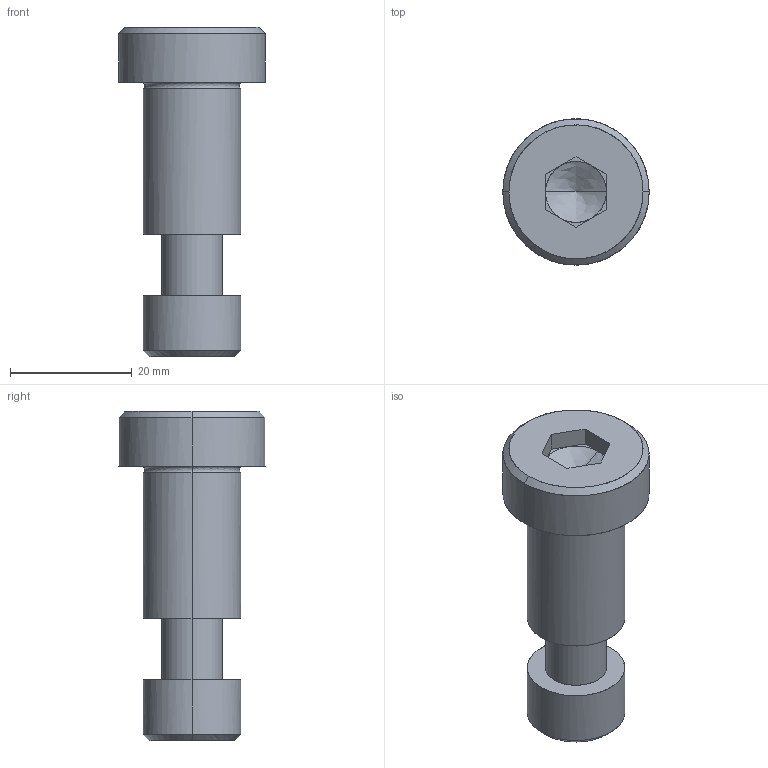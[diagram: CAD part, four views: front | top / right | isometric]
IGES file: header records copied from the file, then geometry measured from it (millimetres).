
Global section: file name: E:\UnigraphicsGraphicData\MISUMI_PRESS-PARTS\IGES\3d_sbtc16-25_05121_r00.igs; native system: NX V5.0; preprocessor: UGS NX IGES V5.0; author: MISUMI; date: 20110105.162446; units: millimetre
Bounding box: 24 x 24 x 54 mm (x, y, z)
Surface area: 5539.6 mm2 (no closed solid volume)
Topology: 0 solids, 0 shells, 52 faces, 286 edges, 282 vertices
Faces by surface type: bspline 52
